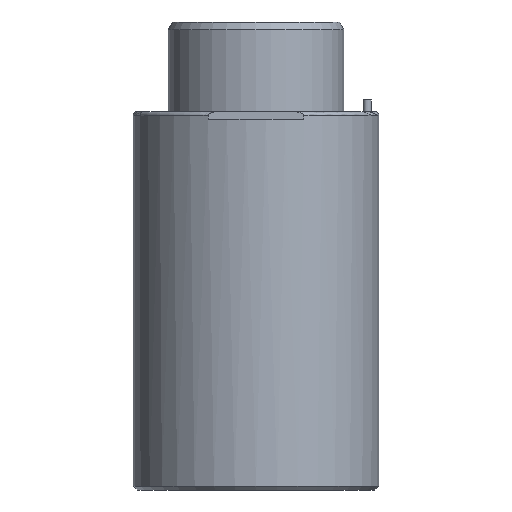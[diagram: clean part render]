
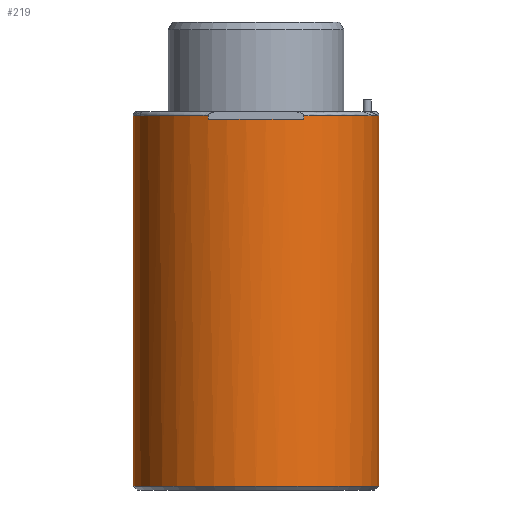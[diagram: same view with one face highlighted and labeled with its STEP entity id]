
A CAD part, left-side view. The second image highlights one B-rep face of the part: STEP entity #219.
In plain terms, the highlighted cylindrical face has radius 31.5 mm (diameter 63 mm), a partial arc.
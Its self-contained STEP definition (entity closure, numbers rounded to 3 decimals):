
#166=CYLINDRICAL_SURFACE('',#1095,31.5);
#219=ADVANCED_FACE('',(#285),#166,.T.);
#285=FACE_OUTER_BOUND('',#354,.T.);
#354=EDGE_LOOP('',(#639,#640,#641,#642,#643,#644,#645,#646));
#371=CIRCLE('',#987,31.5);
#429=CIRCLE('',#1091,31.5);
#430=CIRCLE('',#1093,31.5);
#431=CIRCLE('',#1094,31.5);
#639=ORIENTED_EDGE('',*,*,#867,.F.);
#640=ORIENTED_EDGE('',*,*,#868,.F.);
#641=ORIENTED_EDGE('',*,*,#869,.F.);
#642=ORIENTED_EDGE('',*,*,#866,.T.);
#643=ORIENTED_EDGE('',*,*,#863,.T.);
#644=ORIENTED_EDGE('',*,*,#769,.F.);
#645=ORIENTED_EDGE('',*,*,#862,.F.);
#646=ORIENTED_EDGE('',*,*,#870,.T.);
#683=VERTEX_POINT('',#1433);
#686=VERTEX_POINT('',#1438);
#741=VERTEX_POINT('',#1629);
#746=VERTEX_POINT('',#1647);
#750=VERTEX_POINT('',#1667);
#751=VERTEX_POINT('',#1672);
#752=VERTEX_POINT('',#1673);
#753=VERTEX_POINT('',#1675);
#769=EDGE_CURVE('',#683,#686,#371,.T.);
#862=EDGE_CURVE('',#746,#683,#917,.T.);
#863=EDGE_CURVE('',#741,#686,#918,.T.);
#866=EDGE_CURVE('',#750,#741,#429,.T.);
#867=EDGE_CURVE('',#751,#752,#919,.T.);
#868=EDGE_CURVE('',#753,#751,#430,.T.);
#869=EDGE_CURVE('',#750,#753,#920,.T.);
#870=EDGE_CURVE('',#746,#752,#431,.T.);
#917=LINE('',#1655,#965);
#918=LINE('',#1656,#966);
#919=LINE('',#1671,#967);
#920=LINE('',#1676,#968);
#965=VECTOR('',#1375,1.);
#966=VECTOR('',#1376,1.);
#967=VECTOR('',#1385,1.);
#968=VECTOR('',#1388,1.);
#987=AXIS2_PLACEMENT_3D('',#1441,#1137,#1138);
#1091=AXIS2_PLACEMENT_3D('',#1669,#1381,#1382);
#1093=AXIS2_PLACEMENT_3D('',#1674,#1386,#1387);
#1094=AXIS2_PLACEMENT_3D('',#1677,#1389,#1390);
#1095=AXIS2_PLACEMENT_3D('',#1678,#1391,#1392);
#1137=DIRECTION('',(0.,0.,-1.));
#1138=DIRECTION('',(1.,0.,0.));
#1375=DIRECTION('',(0.,0.,-1.));
#1376=DIRECTION('',(0.,0.,-1.));
#1381=DIRECTION('',(0.,0.,-1.));
#1382=DIRECTION('',(1.,0.,0.));
#1385=DIRECTION('',(0.,0.,1.));
#1386=DIRECTION('',(0.,0.,1.));
#1387=DIRECTION('',(-0.845,0.535,0.));
#1388=DIRECTION('',(0.,0.,-1.));
#1389=DIRECTION('',(0.,0.,-1.));
#1390=DIRECTION('',(1.,0.,0.));
#1391=DIRECTION('',(0.,0.,-1.));
#1392=DIRECTION('',(-1.,0.,0.));
#1433=CARTESIAN_POINT('',(0.,-31.5,1.));
#1438=CARTESIAN_POINT('',(0.,31.5,1.));
#1441=CARTESIAN_POINT('',(0.,0.,1.));
#1629=CARTESIAN_POINT('',(0.,31.5,96.));
#1647=CARTESIAN_POINT('',(0.,-31.5,96.));
#1655=CARTESIAN_POINT('',(0.,-31.5,1.));
#1656=CARTESIAN_POINT('',(0.,31.5,1.));
#1667=CARTESIAN_POINT('',(-29.,12.298,96.));
#1669=CARTESIAN_POINT('',(0.,0.,96.));
#1671=CARTESIAN_POINT('',(-29.,-12.298,97.02));
#1672=CARTESIAN_POINT('',(-29.,-12.298,95.));
#1673=CARTESIAN_POINT('',(-29.,-12.298,96.));
#1674=CARTESIAN_POINT('',(0.,0.,95.));
#1675=CARTESIAN_POINT('',(-29.,12.298,95.));
#1676=CARTESIAN_POINT('',(-29.,12.298,97.02));
#1677=CARTESIAN_POINT('',(0.,0.,96.));
#1678=CARTESIAN_POINT('',(0.,0.,96.));
